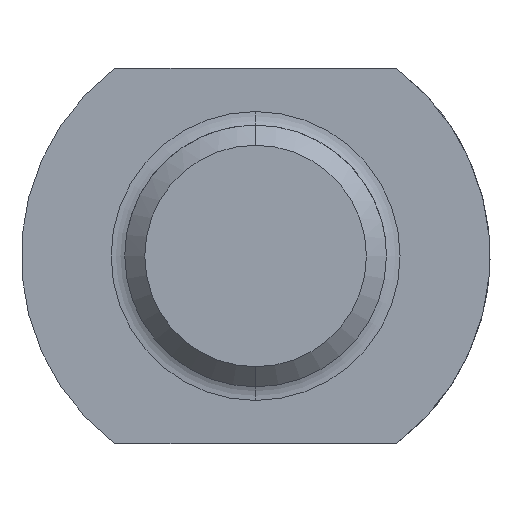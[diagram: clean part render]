
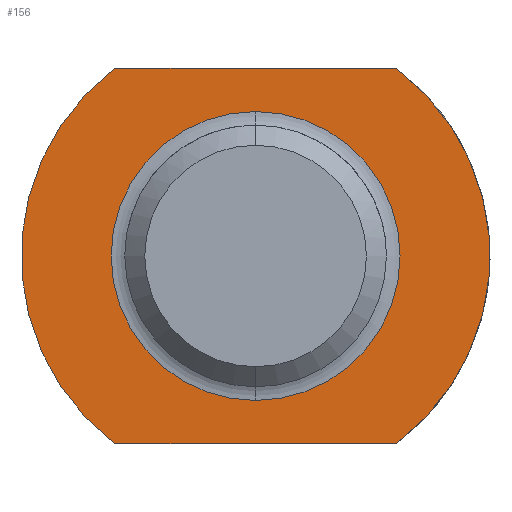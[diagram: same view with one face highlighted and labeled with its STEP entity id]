
A CAD part, left-side view. The second image highlights one B-rep face of the part: STEP entity #156.
In plain terms, the highlighted planar face has unit normal (-1, 0, 0).
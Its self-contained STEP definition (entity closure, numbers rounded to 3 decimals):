
#57=CARTESIAN_POINT('Line Origine',(0.,0.,-17.2)) ;
#61=CARTESIAN_POINT('Vertex',(0.,-12.9,-17.2)) ;
#63=CARTESIAN_POINT('Vertex',(0.,12.9,-17.2)) ;
#92=CARTESIAN_POINT('Axis2P3D Location',(0.,13.25,0.)) ;
#97=CARTESIAN_POINT('Axis2P3D Location',(0.,0.,0.)) ;
#101=CARTESIAN_POINT('Vertex',(0.,12.9,17.2)) ;
#104=CARTESIAN_POINT('Axis2P3D Location',(0.,0.,0.)) ;
#108=CARTESIAN_POINT('Vertex',(0.,-12.9,17.2)) ;
#111=CARTESIAN_POINT('Line Origine',(0.,0.,17.2)) ;
#122=CARTESIAN_POINT('Axis2P3D Location',(0.,0.,0.)) ;
#126=CARTESIAN_POINT('Vertex',(0.,13.25,0.)) ;
#128=CARTESIAN_POINT('Vertex',(0.,0.,13.25)) ;
#131=CARTESIAN_POINT('Axis2P3D Location',(0.,0.,0.)) ;
#135=CARTESIAN_POINT('Vertex',(0.,-13.25,0.)) ;
#138=CARTESIAN_POINT('Axis2P3D Location',(0.,0.,0.)) ;
#142=CARTESIAN_POINT('Vertex',(0.,0.,-13.25)) ;
#145=CARTESIAN_POINT('Axis2P3D Location',(0.,0.,0.)) ;
#58=DIRECTION('Vector Direction',(0.,1.,0.)) ;
#93=DIRECTION('Axis2P3D Direction',(1.,0.,-0.)) ;
#94=DIRECTION('Axis2P3D XDirection',(-0.,0.,-1.)) ;
#98=DIRECTION('Axis2P3D Direction',(1.,0.,-0.)) ;
#105=DIRECTION('Axis2P3D Direction',(1.,0.,-0.)) ;
#112=DIRECTION('Vector Direction',(0.,-1.,0.)) ;
#123=DIRECTION('Axis2P3D Direction',(1.,0.,-0.)) ;
#132=DIRECTION('Axis2P3D Direction',(1.,0.,-0.)) ;
#139=DIRECTION('Axis2P3D Direction',(1.,0.,-0.)) ;
#146=DIRECTION('Axis2P3D Direction',(1.,0.,-0.)) ;
#95=AXIS2_PLACEMENT_3D('Plane Axis2P3D',#92,#93,#94) ;
#99=AXIS2_PLACEMENT_3D('Circle Axis2P3D',#97,#98,$) ;
#106=AXIS2_PLACEMENT_3D('Circle Axis2P3D',#104,#105,$) ;
#124=AXIS2_PLACEMENT_3D('Circle Axis2P3D',#122,#123,$) ;
#133=AXIS2_PLACEMENT_3D('Circle Axis2P3D',#131,#132,$) ;
#140=AXIS2_PLACEMENT_3D('Circle Axis2P3D',#138,#139,$) ;
#147=AXIS2_PLACEMENT_3D('Circle Axis2P3D',#145,#146,$) ;
#117=ORIENTED_EDGE('',*,*,#103,.F.) ;
#118=ORIENTED_EDGE('',*,*,#65,.F.) ;
#119=ORIENTED_EDGE('',*,*,#110,.F.) ;
#120=ORIENTED_EDGE('',*,*,#115,.F.) ;
#151=ORIENTED_EDGE('',*,*,#130,.T.) ;
#152=ORIENTED_EDGE('',*,*,#137,.T.) ;
#153=ORIENTED_EDGE('',*,*,#144,.T.) ;
#154=ORIENTED_EDGE('',*,*,#149,.T.) ;
#155=FACE_BOUND('',#150,.T.) ;
#59=VECTOR('Line Direction',#58,1.) ;
#113=VECTOR('Line Direction',#112,1.) ;
#156=ADVANCED_FACE('AGS3421M24',(#121,#155),#96,.F.) ;
#100=CIRCLE('generated circle',#99,21.5) ;
#107=CIRCLE('generated circle',#106,21.5) ;
#125=CIRCLE('generated circle',#124,13.25) ;
#134=CIRCLE('generated circle',#133,13.25) ;
#141=CIRCLE('generated circle',#140,13.25) ;
#148=CIRCLE('generated circle',#147,13.25) ;
#65=EDGE_CURVE('',#62,#64,#60,.T.) ;
#103=EDGE_CURVE('',#64,#102,#100,.T.) ;
#110=EDGE_CURVE('',#109,#62,#107,.T.) ;
#115=EDGE_CURVE('',#102,#109,#114,.T.) ;
#130=EDGE_CURVE('',#127,#129,#125,.T.) ;
#137=EDGE_CURVE('',#129,#136,#134,.T.) ;
#144=EDGE_CURVE('',#136,#143,#141,.T.) ;
#149=EDGE_CURVE('',#143,#127,#148,.T.) ;
#116=EDGE_LOOP('',(#117,#118,#119,#120)) ;
#150=EDGE_LOOP('',(#151,#152,#153,#154)) ;
#121=FACE_OUTER_BOUND('',#116,.T.) ;
#60=LINE('Line',#57,#59) ;
#114=LINE('Line',#111,#113) ;
#96=PLANE('Plane',#95) ;
#62=VERTEX_POINT('',#61) ;
#64=VERTEX_POINT('',#63) ;
#102=VERTEX_POINT('',#101) ;
#109=VERTEX_POINT('',#108) ;
#127=VERTEX_POINT('',#126) ;
#129=VERTEX_POINT('',#128) ;
#136=VERTEX_POINT('',#135) ;
#143=VERTEX_POINT('',#142) ;
